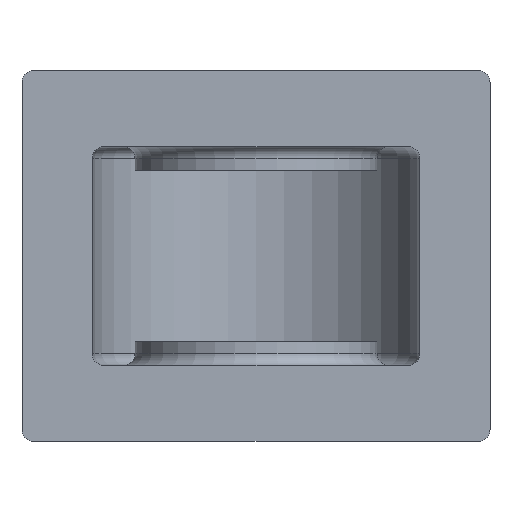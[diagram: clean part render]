
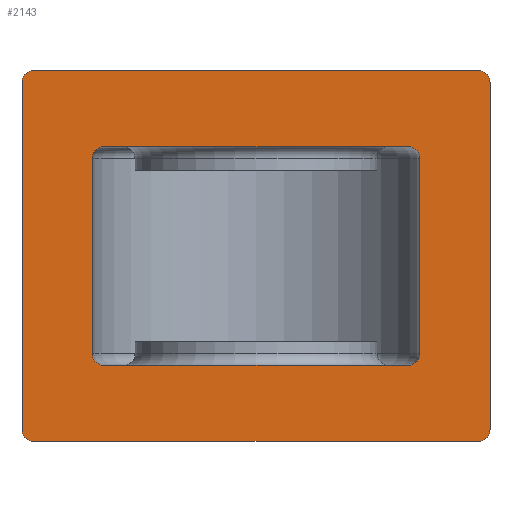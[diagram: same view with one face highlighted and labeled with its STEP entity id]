
A CAD part, front view. The second image highlights one B-rep face of the part: STEP entity #2143.
In plain terms, the highlighted planar face has unit normal (0, -1, 0).
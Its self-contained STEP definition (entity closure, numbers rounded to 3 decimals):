
#84=CARTESIAN_POINT('',(42.,-10.0,25.0));
#85=VERTEX_POINT('',#84);
#92=CARTESIAN_POINT('',(39.,-10.0,28.));
#93=VERTEX_POINT('',#92);
#94=CARTESIAN_POINT('',(39.,-10.,25.0));
#95=DIRECTION('',(0.,-1.0,0.));
#96=DIRECTION('',(0.707,0.,0.707));
#97=AXIS2_PLACEMENT_3D('',#94,#95,#96);
#98=CIRCLE('',#97,3.);
#99=EDGE_CURVE('',#85,#93,#98,.T.);
#149=CARTESIAN_POINT('',(-39.,-10.0,28.));
#150=VERTEX_POINT('',#149);
#151=CARTESIAN_POINT('',(-42.,-10.,25.0));
#152=VERTEX_POINT('',#151);
#153=CARTESIAN_POINT('',(-39.,-10.,25.0));
#154=DIRECTION('',(0.0,-1.0,0.0));
#155=DIRECTION('',(-0.707,0.0,0.707));
#156=AXIS2_PLACEMENT_3D('',#153,#154,#155);
#157=CIRCLE('',#156,3.);
#158=EDGE_CURVE('',#150,#152,#157,.T.);
#184=CARTESIAN_POINT('',(-39.,-10.0,28.));
#185=DIRECTION('',(1.0,0.0,0.0));
#186=VECTOR('',#185,78.);
#187=LINE('',#184,#186);
#188=EDGE_CURVE('',#150,#93,#187,.T.);
#220=CARTESIAN_POINT('',(-42.,-10.,-25.0));
#221=VERTEX_POINT('',#220);
#228=CARTESIAN_POINT('',(-39.,-10.0,-28.));
#229=VERTEX_POINT('',#228);
#230=CARTESIAN_POINT('',(-39.,-10.,-25.0));
#231=DIRECTION('',(0.0,-1.0,0.0));
#232=DIRECTION('',(-0.707,0.0,-0.707));
#233=AXIS2_PLACEMENT_3D('',#230,#231,#232);
#234=CIRCLE('',#233,3.);
#235=EDGE_CURVE('',#221,#229,#234,.T.);
#285=CARTESIAN_POINT('',(39.,-10.0,-28.));
#286=VERTEX_POINT('',#285);
#287=CARTESIAN_POINT('',(42.,-10.0,-25.0));
#288=VERTEX_POINT('',#287);
#289=CARTESIAN_POINT('',(39.,-10.,-25.0));
#290=DIRECTION('',(0.,-1.0,0.));
#291=DIRECTION('',(0.707,0.,-0.707));
#292=AXIS2_PLACEMENT_3D('',#289,#290,#291);
#293=CIRCLE('',#292,3.);
#294=EDGE_CURVE('',#286,#288,#293,.T.);
#320=CARTESIAN_POINT('',(39.,-10.0,-28.));
#321=DIRECTION('',(-1.0,0.0,0.0));
#322=VECTOR('',#321,78.);
#323=LINE('',#320,#322);
#324=EDGE_CURVE('',#286,#229,#323,.T.);
#1110=CARTESIAN_POINT('',(-60.0,-10.0,44.5));
#1111=VERTEX_POINT('',#1110);
#1118=CARTESIAN_POINT('',(-57.0,-10.0,47.5));
#1119=VERTEX_POINT('',#1118);
#1120=CARTESIAN_POINT('',(-57.0,-10.0,44.5));
#1121=DIRECTION('',(0.0,1.0,0.0));
#1122=DIRECTION('',(-0.707,0.0,0.707));
#1123=AXIS2_PLACEMENT_3D('',#1120,#1121,#1122);
#1124=CIRCLE('',#1123,3.0);
#1125=EDGE_CURVE('',#1111,#1119,#1124,.T.);
#1142=CARTESIAN_POINT('',(-60.0,-10.0,-44.5));
#1143=VERTEX_POINT('',#1142);
#1150=CARTESIAN_POINT('',(-60.0,-10.0,44.5));
#1151=DIRECTION('',(0.0,0.0,-1.0));
#1152=VECTOR('',#1151,89.0);
#1153=LINE('',#1150,#1152);
#1154=EDGE_CURVE('',#1111,#1143,#1153,.T.);
#1166=CARTESIAN_POINT('',(-57.,-10.0,-47.5));
#1167=VERTEX_POINT('',#1166);
#1174=CARTESIAN_POINT('',(-57.,-10.0,-44.5));
#1175=DIRECTION('',(0.0,1.0,0.0));
#1176=DIRECTION('',(-0.707,0.0,-0.707));
#1177=AXIS2_PLACEMENT_3D('',#1174,#1175,#1176);
#1178=CIRCLE('',#1177,3.);
#1179=EDGE_CURVE('',#1167,#1143,#1178,.T.);
#1191=CARTESIAN_POINT('',(57.0,-10.0,-47.5));
#1192=VERTEX_POINT('',#1191);
#1199=CARTESIAN_POINT('',(-57.0,-10.0,-47.5));
#1200=DIRECTION('',(1.0,0.0,0.0));
#1201=VECTOR('',#1200,114.0);
#1202=LINE('',#1199,#1201);
#1203=EDGE_CURVE('',#1167,#1192,#1202,.T.);
#1297=CARTESIAN_POINT('',(60.0,-10.0,-44.5));
#1298=VERTEX_POINT('',#1297);
#1305=CARTESIAN_POINT('',(57.0,-10.0,-44.5));
#1306=DIRECTION('',(0.0,1.0,0.0));
#1307=DIRECTION('',(0.707,0.0,-0.707));
#1308=AXIS2_PLACEMENT_3D('',#1305,#1306,#1307);
#1309=CIRCLE('',#1308,3.0);
#1310=EDGE_CURVE('',#1298,#1192,#1309,.T.);
#1322=CARTESIAN_POINT('',(60.0,-10.0,44.5));
#1323=VERTEX_POINT('',#1322);
#1330=CARTESIAN_POINT('',(60.0,-10.0,-44.5));
#1331=DIRECTION('',(0.0,0.0,1.0));
#1332=VECTOR('',#1331,89.0);
#1333=LINE('',#1330,#1332);
#1334=EDGE_CURVE('',#1298,#1323,#1333,.T.);
#1346=CARTESIAN_POINT('',(57.,-10.0,47.5));
#1347=VERTEX_POINT('',#1346);
#1354=CARTESIAN_POINT('',(57.,-10.0,44.5));
#1355=DIRECTION('',(0.0,1.0,0.0));
#1356=DIRECTION('',(0.707,0.0,0.707));
#1357=AXIS2_PLACEMENT_3D('',#1354,#1355,#1356);
#1358=CIRCLE('',#1357,3.);
#1359=EDGE_CURVE('',#1347,#1323,#1358,.T.);
#1372=CARTESIAN_POINT('',(57.0,-10.0,47.5));
#1373=DIRECTION('',(-1.0,0.0,0.0));
#1374=VECTOR('',#1373,114.0);
#1375=LINE('',#1372,#1374);
#1376=EDGE_CURVE('',#1347,#1119,#1375,.T.);
#2092=CARTESIAN_POINT('',(42.,-10.0,25.0));
#2093=DIRECTION('',(0.0,0.0,-1.0));
#2094=VECTOR('',#2093,50.0);
#2095=LINE('',#2092,#2094);
#2096=EDGE_CURVE('',#85,#288,#2095,.T.);
#2107=CARTESIAN_POINT('',(-42.,-10.,-25.0));
#2108=DIRECTION('',(0.0,0.0,1.0));
#2109=VECTOR('',#2108,50.0);
#2110=LINE('',#2107,#2109);
#2111=EDGE_CURVE('',#221,#152,#2110,.T.);
#2118=CARTESIAN_POINT('',(0.0,-10.0,0.));
#2119=DIRECTION('',(0.0,1.0,0.0));
#2120=DIRECTION('',(0.0,0.0,1.0));
#2121=AXIS2_PLACEMENT_3D('',#2118,#2119,#2120);
#2122=PLANE('',#2121);
#2123=ORIENTED_EDGE('',*,*,#1125,.F.);
#2124=ORIENTED_EDGE('',*,*,#1154,.T.);
#2125=ORIENTED_EDGE('',*,*,#1179,.F.);
#2126=ORIENTED_EDGE('',*,*,#1203,.T.);
#2127=ORIENTED_EDGE('',*,*,#1310,.F.);
#2128=ORIENTED_EDGE('',*,*,#1334,.T.);
#2129=ORIENTED_EDGE('',*,*,#1359,.F.);
#2130=ORIENTED_EDGE('',*,*,#1376,.T.);
#2131=EDGE_LOOP('',(#2123,#2124,#2125,#2126,#2127,#2128,#2129,#2130));
#2132=FACE_OUTER_BOUND('',#2131,.T.);
#2133=ORIENTED_EDGE('',*,*,#324,.T.);
#2134=ORIENTED_EDGE('',*,*,#235,.F.);
#2135=ORIENTED_EDGE('',*,*,#2111,.T.);
#2136=ORIENTED_EDGE('',*,*,#158,.F.);
#2137=ORIENTED_EDGE('',*,*,#188,.T.);
#2138=ORIENTED_EDGE('',*,*,#99,.F.);
#2139=ORIENTED_EDGE('',*,*,#2096,.T.);
#2140=ORIENTED_EDGE('',*,*,#294,.F.);
#2141=EDGE_LOOP('',(#2133,#2134,#2135,#2136,#2137,#2138,#2139,#2140));
#2142=FACE_BOUND('',#2141,.T.);
#2143=ADVANCED_FACE('',(#2132,#2142),#2122,.F.);
